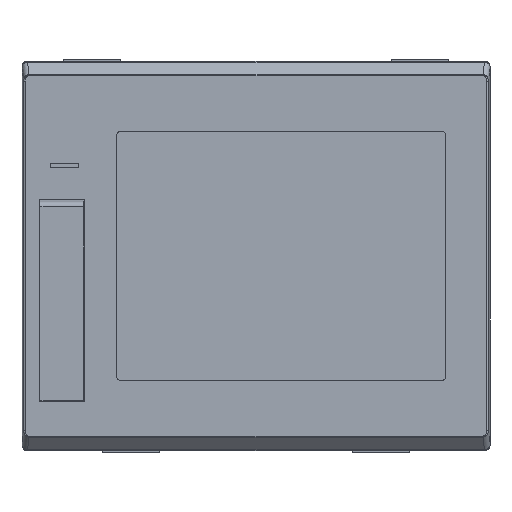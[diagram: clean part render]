
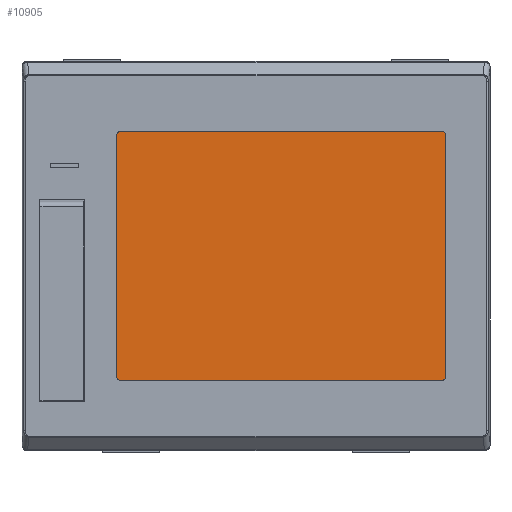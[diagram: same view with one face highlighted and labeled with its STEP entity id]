
A CAD part, top view. The second image highlights one B-rep face of the part: STEP entity #10905.
In plain terms, the highlighted planar face has unit normal (0, 0, 1).
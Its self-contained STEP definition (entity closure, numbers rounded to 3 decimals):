
#2639=CARTESIAN_POINT('',(-48.65,43.3,-0.1));
#2640=DIRECTION('',(0.,0.,-1.));
#2641=DIRECTION('',(-1.,0.,0.));
#2642=AXIS2_PLACEMENT_3D('',#2639,#2640,#2641);
#2644=DIRECTION('',(1.,0.,0.));
#2645=VECTOR('',#2644,115.3);
#2646=CARTESIAN_POINT('',(-48.65,44.3,-0.1));
#2647=LINE('',#2646,#2645);
#2648=CARTESIAN_POINT('',(66.65,43.3,-0.1));
#2649=DIRECTION('',(0.,0.,-1.));
#2650=DIRECTION('',(0.,1.,0.));
#2651=AXIS2_PLACEMENT_3D('',#2648,#2649,#2650);
#2653=DIRECTION('',(0.,-1.,0.));
#2654=VECTOR('',#2653,86.6);
#2655=CARTESIAN_POINT('',(67.65,43.3,-0.1));
#2656=LINE('',#2655,#2654);
#2657=CARTESIAN_POINT('',(66.65,-43.3,-0.1));
#2658=DIRECTION('',(0.,0.,-1.));
#2659=DIRECTION('',(1.,0.,0.));
#2660=AXIS2_PLACEMENT_3D('',#2657,#2658,#2659);
#2662=DIRECTION('',(-1.,0.,0.));
#2663=VECTOR('',#2662,115.3);
#2664=CARTESIAN_POINT('',(66.65,-44.3,-0.1));
#2665=LINE('',#2664,#2663);
#2666=CARTESIAN_POINT('',(-48.65,-43.3,-0.1));
#2667=DIRECTION('',(0.,0.,-1.));
#2668=DIRECTION('',(0.,-1.,0.));
#2669=AXIS2_PLACEMENT_3D('',#2666,#2667,#2668);
#2671=DIRECTION('',(0.,1.,0.));
#2672=VECTOR('',#2671,86.6);
#2673=CARTESIAN_POINT('',(-49.65,-43.3,-0.1));
#2674=LINE('',#2673,#2672);
#5463=CARTESIAN_POINT('',(-49.65,43.3,-0.1));
#5464=VERTEX_POINT('',#5463);
#5465=CARTESIAN_POINT('',(-48.65,44.3,-0.1));
#5466=VERTEX_POINT('',#5465);
#5467=CARTESIAN_POINT('',(66.65,44.3,-0.1));
#5468=VERTEX_POINT('',#5467);
#5469=CARTESIAN_POINT('',(67.65,43.3,-0.1));
#5470=VERTEX_POINT('',#5469);
#5471=CARTESIAN_POINT('',(67.65,-43.3,-0.1));
#5472=VERTEX_POINT('',#5471);
#5473=CARTESIAN_POINT('',(66.65,-44.3,-0.1));
#5474=VERTEX_POINT('',#5473);
#5475=CARTESIAN_POINT('',(-48.65,-44.3,-0.1));
#5476=VERTEX_POINT('',#5475);
#5477=CARTESIAN_POINT('',(-49.65,-43.3,-0.1));
#5478=VERTEX_POINT('',#5477);
#10890=CARTESIAN_POINT('',(9.,0.,-0.1));
#10891=DIRECTION('',(0.,0.,1.));
#10892=DIRECTION('',(1.,0.,0.));
#10893=AXIS2_PLACEMENT_3D('',#10890,#10891,#10892);
#10894=PLANE('',#10893);
#10895=ORIENTED_EDGE('',*,*,#10801,.T.);
#10896=ORIENTED_EDGE('',*,*,#10815,.T.);
#10897=ORIENTED_EDGE('',*,*,#10829,.T.);
#10898=ORIENTED_EDGE('',*,*,#10843,.T.);
#10899=ORIENTED_EDGE('',*,*,#10857,.T.);
#10900=ORIENTED_EDGE('',*,*,#10871,.T.);
#10901=ORIENTED_EDGE('',*,*,#10884,.T.);
#10902=ORIENTED_EDGE('',*,*,#10786,.T.);
#10903=EDGE_LOOP('',(#10895,#10896,#10897,#10898,#10899,#10900,#10901,#10902));
#10904=FACE_OUTER_BOUND('',#10903,.F.);
#10905=ADVANCED_FACE('',(#10904),#10894,.T.);
#2643=CIRCLE('',#2642,1.);
#2652=CIRCLE('',#2651,1.);
#2661=CIRCLE('',#2660,1.);
#2670=CIRCLE('',#2669,1.);
#10786=EDGE_CURVE('',#5478,#5464,#2674,.T.);
#10801=EDGE_CURVE('',#5464,#5466,#2643,.T.);
#10815=EDGE_CURVE('',#5466,#5468,#2647,.T.);
#10829=EDGE_CURVE('',#5468,#5470,#2652,.T.);
#10843=EDGE_CURVE('',#5470,#5472,#2656,.T.);
#10857=EDGE_CURVE('',#5472,#5474,#2661,.T.);
#10871=EDGE_CURVE('',#5474,#5476,#2665,.T.);
#10884=EDGE_CURVE('',#5476,#5478,#2670,.T.);
